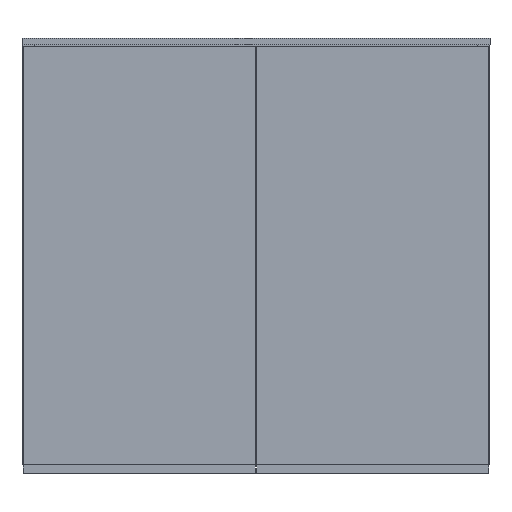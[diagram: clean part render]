
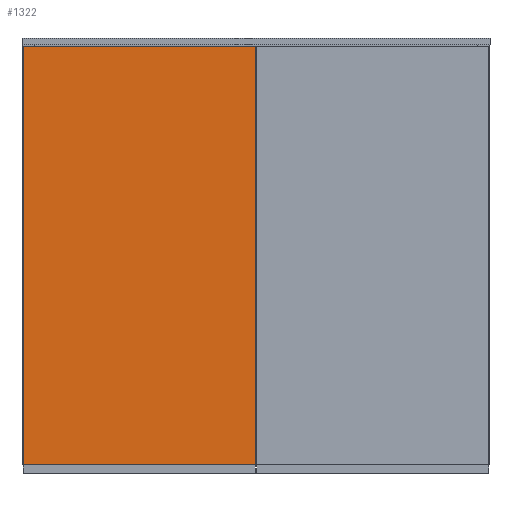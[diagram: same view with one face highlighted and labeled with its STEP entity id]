
A CAD part, front view. The second image highlights one B-rep face of the part: STEP entity #1322.
In plain terms, the highlighted planar face has unit normal (0, -1, 0).
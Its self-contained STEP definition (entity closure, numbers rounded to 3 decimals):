
#68=FACE_OUTER_BOUND('',#138,.T.);
#138=EDGE_LOOP('',(#1058,#1059,#1060,#1061));
#288=LINE('',#2004,#462);
#290=LINE('',#2008,#464);
#293=LINE('',#2014,#467);
#294=LINE('',#2015,#468);
#462=VECTOR('',#1653,10.);
#464=VECTOR('',#1657,10.);
#467=VECTOR('',#1662,10.);
#468=VECTOR('',#1663,10.);
#594=VERTEX_POINT('',#2001);
#595=VERTEX_POINT('',#2003);
#596=VERTEX_POINT('',#2007);
#598=VERTEX_POINT('',#2013);
#752=EDGE_CURVE('',#595,#594,#288,.T.);
#754=EDGE_CURVE('',#596,#595,#290,.T.);
#757=EDGE_CURVE('',#598,#594,#293,.T.);
#758=EDGE_CURVE('',#596,#598,#294,.T.);
#1058=ORIENTED_EDGE('',*,*,#752,.T.);
#1059=ORIENTED_EDGE('',*,*,#757,.F.);
#1060=ORIENTED_EDGE('',*,*,#758,.F.);
#1061=ORIENTED_EDGE('',*,*,#754,.T.);
#1189=PLANE('',#1409);
#1322=ADVANCED_FACE('',(#68),#1189,.T.);
#1409=AXIS2_PLACEMENT_3D('',#2012,#1660,#1661);
#1653=DIRECTION('',(0.,0.,1.));
#1657=DIRECTION('',(1.,0.,0.));
#1660=DIRECTION('center_axis',(0.,-1.,0.));
#1661=DIRECTION('ref_axis',(0.,0.,-1.));
#1662=DIRECTION('',(1.,0.,0.));
#1663=DIRECTION('',(0.,0.,1.));
#2001=CARTESIAN_POINT('',(-1.,-150.,672.));
#2003=CARTESIAN_POINT('',(-1.,-150.,0.));
#2004=CARTESIAN_POINT('',(-1.,-150.,329.));
#2007=CARTESIAN_POINT('',(-374.,-150.,0.));
#2008=CARTESIAN_POINT('',(0.,-150.,0.));
#2012=CARTESIAN_POINT('Origin',(0.,-150.,672.));
#2013=CARTESIAN_POINT('',(-374.,-150.,672.));
#2014=CARTESIAN_POINT('',(0.,-150.,672.));
#2015=CARTESIAN_POINT('',(-374.,-150.,672.));
